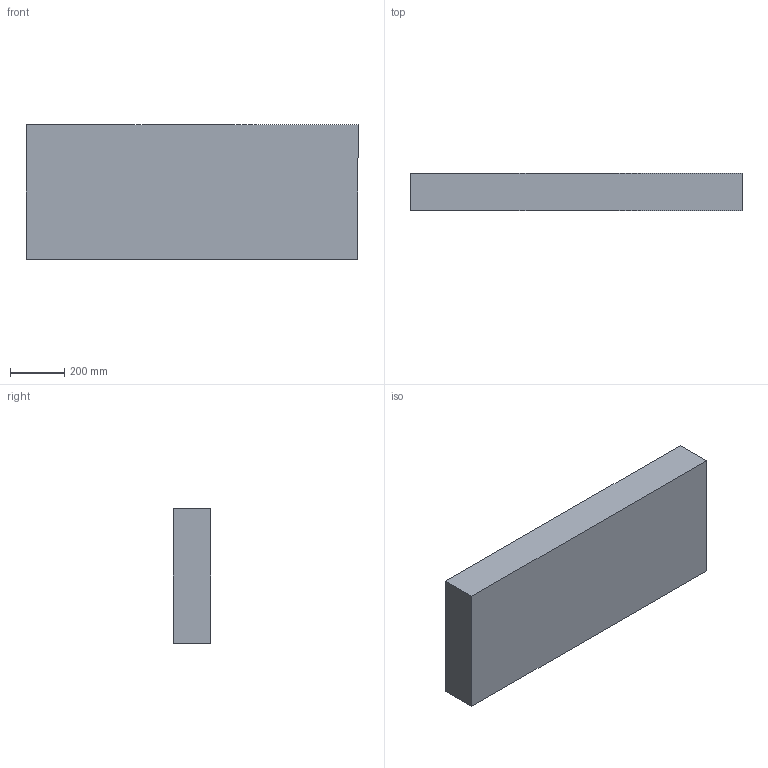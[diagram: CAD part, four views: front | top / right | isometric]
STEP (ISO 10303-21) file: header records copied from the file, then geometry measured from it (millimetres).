
FILE_DESCRIPTION (( 'STEP AP214' ), '1' );
FILE_NAME ('V730 PP BOTTOM TUB 2-5-2024.STEP', '2024-02-15T18:13:43', ( '' ), ( '' ), 'SwSTEP 2.0', 'SolidWorks 2021', '' );
FILE_SCHEMA (( 'AUTOMOTIVE_DESIGN' ));
Length unit declared in the file: millimetre
Products named in the file (1): V730 PP BOTTOM TUB 2-5-2024
Bounding box: 1224.66 x 137.36 x 497.41 mm (x, y, z)
Volume: 24365209.1 mm3; surface area: 2139372.6 mm2
Topology: 1 solids, 1 shells, 807 faces, 1918 edges, 1036 vertices
Faces by surface type: bspline 683, plane 124
Entity records: 33776 total; most frequent: CARTESIAN_POINT 21776, ORIENTED_EDGE 3662, EDGE_CURVE 1831, VERTEX_POINT 1036, DIRECTION 932, EDGE_LOOP 817, FACE_OUTER_BOUND 807, ADVANCED_FACE 807
